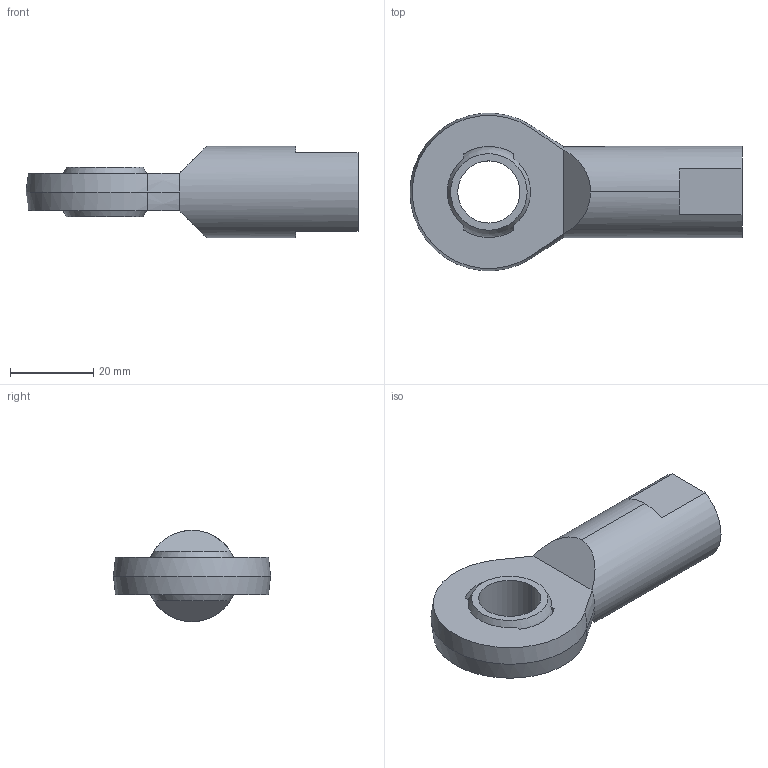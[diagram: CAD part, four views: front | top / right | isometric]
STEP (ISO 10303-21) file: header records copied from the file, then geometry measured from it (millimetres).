
FILE_DESCRIPTION (( 'STEP AP203' ), '1' );
FILE_NAME ('65880.W0215.step', '2014-02-06T18:31:47', ( 'User' ), ( '' ), 'SwSTEP 2.0', 'SolidWorks 2009', '' );
FILE_SCHEMA (( 'CONFIG_CONTROL_DESIGN' ));
Length unit declared in the file: millimetre
Products named in the file (3): 65880.W0215; Part2_65880.W0215; Part1_65880.W0215
Assembly tree (2 placements, depth 2):
  65880.W0215
    Part1_65880.W0215
    Part2_65880.W0215
Bounding box: 80 x 37.88 x 22 mm (x, y, z)
Volume: 19867.2 mm3; surface area: 9195.6 mm2
Topology: 2 solids, 2 shells, 45 faces, 108 edges, 67 vertices
Faces by surface type: plane 20, cylinder 10, sphere 8, cone 7
Entity records: 1624 total; most frequent: DIRECTION 253, CARTESIAN_POINT 253, ORIENTED_EDGE 208, AXIS2_PLACEMENT_3D 107, EDGE_CURVE 104, VERTEX_POINT 67, CIRCLE 57, EDGE_LOOP 53
